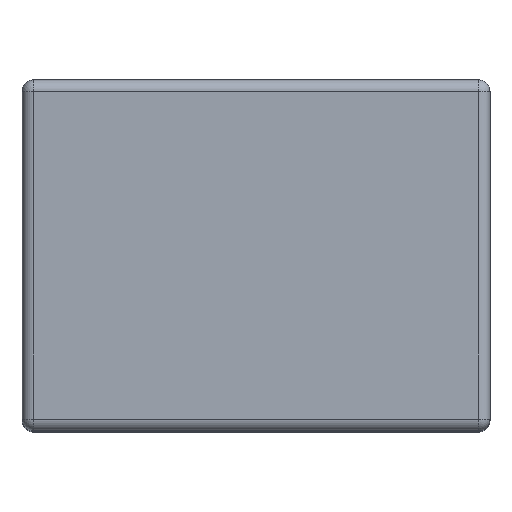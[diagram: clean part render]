
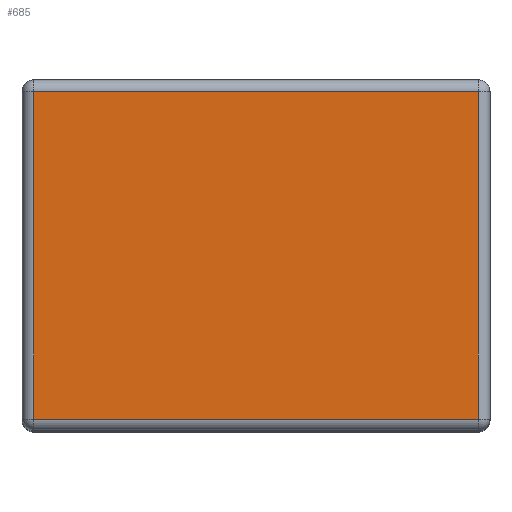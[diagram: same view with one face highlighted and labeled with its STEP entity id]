
A CAD part, top view. The second image highlights one B-rep face of the part: STEP entity #685.
In plain terms, the highlighted planar face has unit normal (0, 0, 1).
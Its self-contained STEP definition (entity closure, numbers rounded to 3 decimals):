
#134=DIRECTION('',(0.,1.,0.));
#135=VECTOR('',#134,0.84);
#136=CARTESIAN_POINT('',(0.57,-0.42,0.));
#137=LINE('',#136,#135);
#138=DIRECTION('',(1.,0.,0.));
#139=VECTOR('',#138,1.14);
#140=CARTESIAN_POINT('',(-0.57,-0.42,0.));
#141=LINE('',#140,#139);
#142=DIRECTION('',(0.,-1.,0.));
#143=VECTOR('',#142,0.84);
#144=CARTESIAN_POINT('',(-0.57,0.42,0.));
#145=LINE('',#144,#143);
#146=DIRECTION('',(-1.,0.,0.));
#147=VECTOR('',#146,1.14);
#148=CARTESIAN_POINT('',(0.57,0.42,0.));
#149=LINE('',#148,#147);
#568=CARTESIAN_POINT('',(0.57,-0.42,0.));
#569=CARTESIAN_POINT('',(0.57,0.42,0.));
#570=VERTEX_POINT('',#568);
#571=VERTEX_POINT('',#569);
#580=CARTESIAN_POINT('',(-0.57,-0.42,0.));
#581=VERTEX_POINT('',#580);
#590=CARTESIAN_POINT('',(-0.57,0.42,0.));
#591=VERTEX_POINT('',#590);
#670=CARTESIAN_POINT('',(0.,0.,0.));
#671=DIRECTION('',(0.,0.,1.));
#672=DIRECTION('',(1.,0.,0.));
#673=AXIS2_PLACEMENT_3D('',#670,#671,#672);
#674=PLANE('',#673);
#676=ORIENTED_EDGE('',*,*,#675,.F.);
#678=ORIENTED_EDGE('',*,*,#677,.F.);
#680=ORIENTED_EDGE('',*,*,#679,.F.);
#682=ORIENTED_EDGE('',*,*,#681,.F.);
#683=EDGE_LOOP('',(#676,#678,#680,#682));
#684=FACE_OUTER_BOUND('',#683,.F.);
#675=EDGE_CURVE('',#570,#571,#137,.T.);
#677=EDGE_CURVE('',#581,#570,#141,.T.);
#679=EDGE_CURVE('',#591,#581,#145,.T.);
#681=EDGE_CURVE('',#571,#591,#149,.T.);
#685=ADVANCED_FACE('',(#684),#674,.T.);
